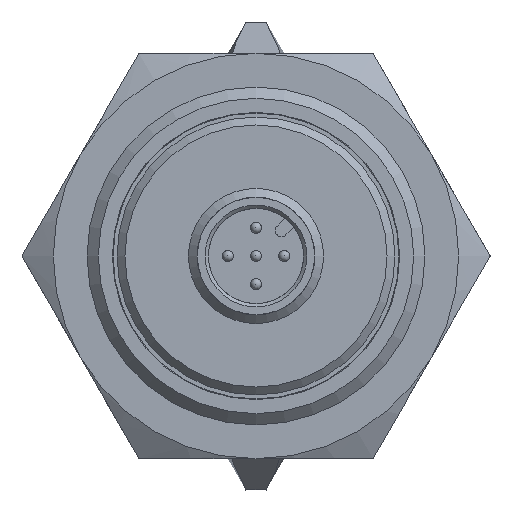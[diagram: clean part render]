
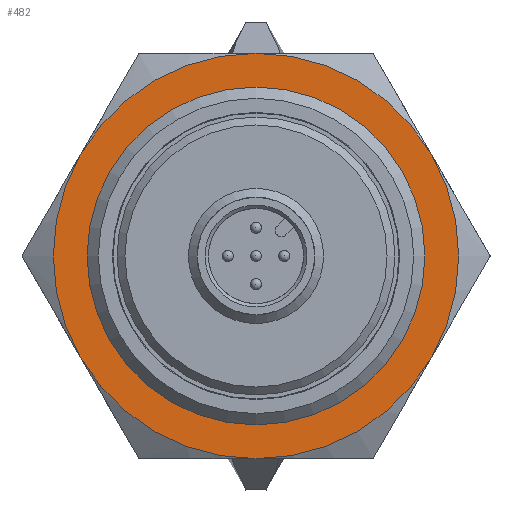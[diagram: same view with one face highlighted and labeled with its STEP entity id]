
A CAD part, left-side view. The second image highlights one B-rep face of the part: STEP entity #482.
In plain terms, the highlighted planar face has unit normal (-1, 0, 0) as drawn and (0, 1, 0) by its records, which use the part's own axes.
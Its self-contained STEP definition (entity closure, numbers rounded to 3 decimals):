
#482 = ADVANCED_FACE( '', ( #745, #746 ), #747, .T. );
#745 = FACE_BOUND( '', #886, .T. );
#746 = FACE_OUTER_BOUND( '', #887, .T. );
#747 = PLANE( '', #888 );
#886 = EDGE_LOOP( '', ( #1094 ) );
#887 = EDGE_LOOP( '', ( #1095, #1096, #1097, #1098, #1099, #1100 ) );
#888 = AXIS2_PLACEMENT_3D( '', #1101, #1102, #1103 );
#1094 = ORIENTED_EDGE( '', *, *, #1416, .T. );
#1095 = ORIENTED_EDGE( '', *, *, #1417, .T. );
#1096 = ORIENTED_EDGE( '', *, *, #1411, .T. );
#1097 = ORIENTED_EDGE( '', *, *, #1405, .T. );
#1098 = ORIENTED_EDGE( '', *, *, #1418, .T. );
#1099 = ORIENTED_EDGE( '', *, *, #1419, .T. );
#1100 = ORIENTED_EDGE( '', *, *, #1420, .T. );
#1101 = CARTESIAN_POINT( '', ( 0., 2.5, 0. ) );
#1102 = DIRECTION( '', ( 0., 1., 0. ) );
#1103 = DIRECTION( '', ( 0., 0., 1. ) );
#1405 = EDGE_CURVE( '', #1591, #1589, #1592, .T. );
#1411 = EDGE_CURVE( '', #1596, #1591, #1602, .T. );
#1416 = EDGE_CURVE( '', #1610, #1610, #1611, .F. );
#1417 = EDGE_CURVE( '', #1612, #1596, #1613, .T. );
#1418 = EDGE_CURVE( '', #1589, #1577, #1614, .T. );
#1419 = EDGE_CURVE( '', #1577, #1615, #1616, .T. );
#1420 = EDGE_CURVE( '', #1615, #1612, #1617, .T. );
#1577 = VERTEX_POINT( '', #1683 );
#1589 = VERTEX_POINT( '', #1725 );
#1591 = VERTEX_POINT( '', #1732 );
#1592 = CIRCLE( '', #1733, 18. );
#1596 = VERTEX_POINT( '', #1746 );
#1602 = CIRCLE( '', #1764, 18. );
#1610 = VERTEX_POINT( '', #1788 );
#1611 = CIRCLE( '', #1789, 14.688 );
#1612 = VERTEX_POINT( '', #1790 );
#1613 = CIRCLE( '', #1791, 18. );
#1614 = CIRCLE( '', #1792, 18. );
#1615 = VERTEX_POINT( '', #1793 );
#1616 = CIRCLE( '', #1794, 18. );
#1617 = CIRCLE( '', #1795, 18. );
#1683 = CARTESIAN_POINT( '', ( -18., 2.5, 0. ) );
#1725 = CARTESIAN_POINT( '', ( -9., 2.5, -15.588 ) );
#1732 = CARTESIAN_POINT( '', ( 9., 2.5, -15.588 ) );
#1733 = AXIS2_PLACEMENT_3D( '', #1966, #1967, #1968 );
#1746 = CARTESIAN_POINT( '', ( 18., 2.5, 0. ) );
#1764 = AXIS2_PLACEMENT_3D( '', #1975, #1976, #1977 );
#1788 = CARTESIAN_POINT( '', ( 0., 2.5, 14.688 ) );
#1789 = AXIS2_PLACEMENT_3D( '', #1980, #1981, #1982 );
#1790 = CARTESIAN_POINT( '', ( 9., 2.5, 15.588 ) );
#1791 = AXIS2_PLACEMENT_3D( '', #1983, #1984, #1985 );
#1792 = AXIS2_PLACEMENT_3D( '', #1986, #1987, #1988 );
#1793 = CARTESIAN_POINT( '', ( -9., 2.5, 15.588 ) );
#1794 = AXIS2_PLACEMENT_3D( '', #1989, #1990, #1991 );
#1795 = AXIS2_PLACEMENT_3D( '', #1992, #1993, #1994 );
#1966 = CARTESIAN_POINT( '', ( 0., 2.5, 0. ) );
#1967 = DIRECTION( '', ( 0., 1., 0. ) );
#1968 = DIRECTION( '', ( 0., 0., 1. ) );
#1975 = CARTESIAN_POINT( '', ( 0., 2.5, 0. ) );
#1976 = DIRECTION( '', ( 0., 1., 0. ) );
#1977 = DIRECTION( '', ( 0., 0., 1. ) );
#1980 = CARTESIAN_POINT( '', ( 0., 2.5, 0. ) );
#1981 = DIRECTION( '', ( 0., 1., 0. ) );
#1982 = DIRECTION( '', ( 0., 0., 1. ) );
#1983 = CARTESIAN_POINT( '', ( 0., 2.5, 0. ) );
#1984 = DIRECTION( '', ( 0., 1., 0. ) );
#1985 = DIRECTION( '', ( 0., 0., 1. ) );
#1986 = CARTESIAN_POINT( '', ( 0., 2.5, 0. ) );
#1987 = DIRECTION( '', ( 0., 1., 0. ) );
#1988 = DIRECTION( '', ( 0., 0., 1. ) );
#1989 = CARTESIAN_POINT( '', ( 0., 2.5, 0. ) );
#1990 = DIRECTION( '', ( 0., 1., 0. ) );
#1991 = DIRECTION( '', ( 0., 0., 1. ) );
#1992 = CARTESIAN_POINT( '', ( 0., 2.5, 0. ) );
#1993 = DIRECTION( '', ( 0., 1., 0. ) );
#1994 = DIRECTION( '', ( 0., 0., 1. ) );
